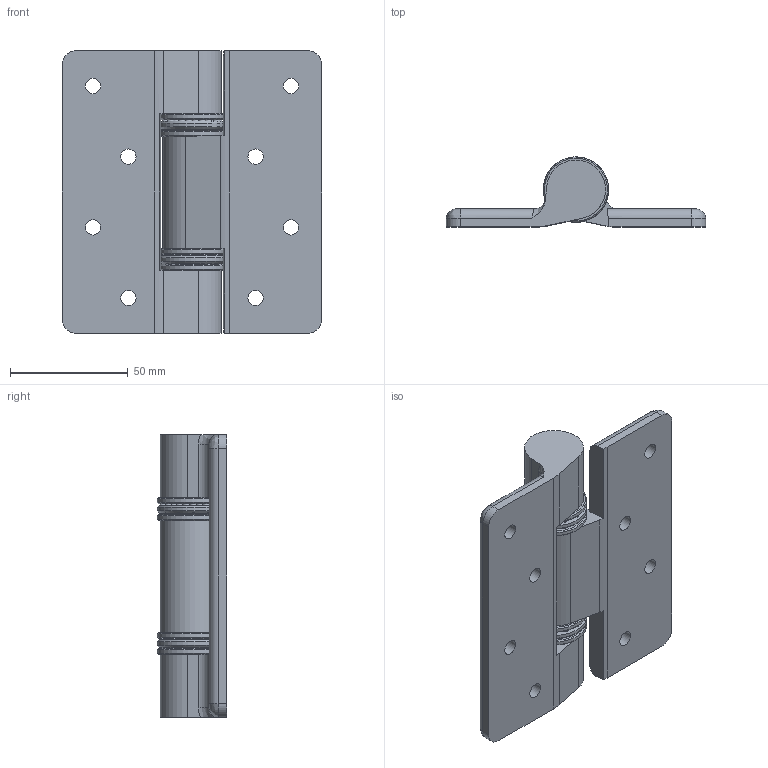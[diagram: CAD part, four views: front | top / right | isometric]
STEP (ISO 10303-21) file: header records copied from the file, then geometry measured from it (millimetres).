
FILE_DESCRIPTION(/* description */ (''),/* implementation_level */ '2;1');
FILE_NAME(/* name */ 'C:\Users\user\Desktop\HS120110\DR_HS120110.stp',/* time_stamp */ '2020-06-01T09:59:41+09:00',/* author */ ('user'),/* organization */ (''),/* preprocessor_version */ 'ST-DEVELOPER v15.6',/* originating_system */ 'Autodesk Inventor 2015',/* authorisation */ '');
FILE_SCHEMA (('AUTOMOTIVE_DESIGN { 1 0 10303 214 3 1 1 }'));
Length unit declared in the file: millimetre
Products named in the file (5): HS120110-1; HS120110-2; 와샤1; 와샤2; HS120110
Bounding box: 110 x 29.59 x 120 mm (x, y, z)
Volume: 136985.1 mm3; surface area: 43916.2 mm2
Topology: 8 solids, 8 shells, 189 faces, 587 edges, 366 vertices
Faces by surface type: cylinder 80, sphere 48, plane 35, cone 20, bspline 6
Full cylindrical faces by diameter (mm): 3 x48, 6.5 x8, 27.7 x6
Entity records: 3369 total; most frequent: CARTESIAN_POINT 629, DIRECTION 623, ORIENTED_EDGE 442, AXIS2_PLACEMENT_3D 276, EDGE_CURVE 221, EDGE_LOOP 183, VERTEX_POINT 154, CIRCLE 142
